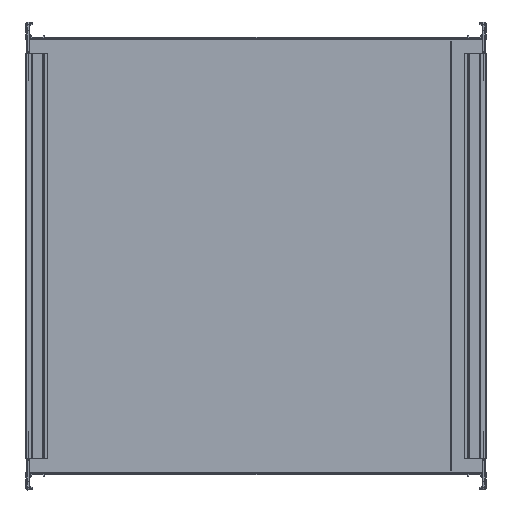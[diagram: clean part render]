
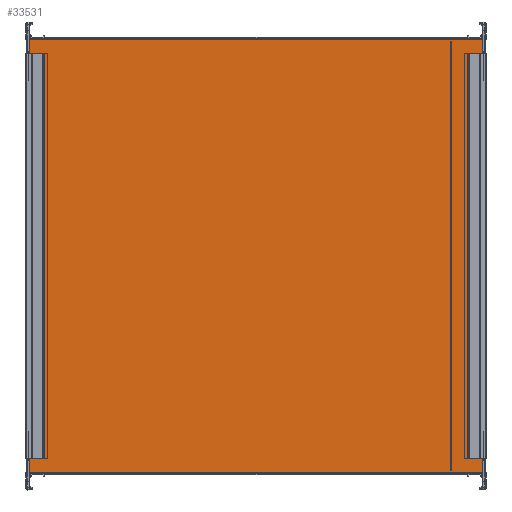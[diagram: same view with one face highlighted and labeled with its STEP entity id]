
A CAD part, front view. The second image highlights one B-rep face of the part: STEP entity #33531.
In plain terms, the highlighted planar face has unit normal (0, -1, 0).
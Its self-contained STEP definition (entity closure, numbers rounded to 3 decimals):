
#1854=FACE_BOUND('',#5904,.T.);
#1855=FACE_BOUND('',#5905,.T.);
#4098=FACE_OUTER_BOUND('',#5903,.T.);
#5903=EDGE_LOOP('',(#27131,#27132,#27133,#27134,#27135,#27136,#27137,#27138,
#27139,#27140,#27141,#27142));
#5904=EDGE_LOOP('',(#27143,#27144,#27145,#27146));
#5905=EDGE_LOOP('',(#27147,#27148,#27149,#27150));
#7525=LINE('',#49805,#10548);
#7526=LINE('',#49811,#10549);
#7572=LINE('',#49950,#10595);
#7587=LINE('',#49984,#10610);
#7600=LINE('',#50007,#10623);
#7601=LINE('',#50010,#10624);
#7605=LINE('',#50018,#10628);
#7611=LINE('',#50031,#10634);
#7625=LINE('',#50060,#10648);
#7630=LINE('',#50070,#10653);
#8399=LINE('',#56803,#11422);
#8400=LINE('',#56805,#11423);
#8492=LINE('',#57057,#11515);
#8578=LINE('',#57300,#11601);
#8579=LINE('',#57302,#11602);
#8580=LINE('',#57303,#11603);
#8581=LINE('',#57306,#11604);
#8582=LINE('',#57308,#11605);
#8583=LINE('',#57310,#11606);
#8584=LINE('',#57311,#11607);
#10548=VECTOR('',#39843,10.);
#10549=VECTOR('',#39848,10.);
#10595=VECTOR('',#39986,10.);
#10610=VECTOR('',#40021,10.);
#10623=VECTOR('',#40048,10.);
#10624=VECTOR('',#40051,10.);
#10628=VECTOR('',#40057,10.);
#10634=VECTOR('',#40065,10.);
#10648=VECTOR('',#40085,10.);
#10653=VECTOR('',#40092,10.);
#11422=VECTOR('',#41235,10.);
#11423=VECTOR('',#41238,10.);
#11515=VECTOR('',#41478,10.);
#11601=VECTOR('',#41712,10.);
#11602=VECTOR('',#41713,10.);
#11603=VECTOR('',#41714,10.);
#11604=VECTOR('',#41715,10.);
#11605=VECTOR('',#41716,10.);
#11606=VECTOR('',#41717,10.);
#11607=VECTOR('',#41718,10.);
#13638=VERTEX_POINT('',#49801);
#13639=VERTEX_POINT('',#49803);
#13641=VERTEX_POINT('',#49808);
#13642=VERTEX_POINT('',#49810);
#13688=VERTEX_POINT('',#49948);
#13689=VERTEX_POINT('',#49949);
#13702=VERTEX_POINT('',#50009);
#13705=VERTEX_POINT('',#50017);
#13710=VERTEX_POINT('',#50028);
#13711=VERTEX_POINT('',#50030);
#13722=VERTEX_POINT('',#50057);
#13723=VERTEX_POINT('',#50059);
#13726=VERTEX_POINT('',#50067);
#13727=VERTEX_POINT('',#50069);
#14804=VERTEX_POINT('',#57299);
#14805=VERTEX_POINT('',#57301);
#14806=VERTEX_POINT('',#57304);
#14807=VERTEX_POINT('',#57305);
#14808=VERTEX_POINT('',#57307);
#14809=VERTEX_POINT('',#57309);
#17365=EDGE_CURVE('',#13639,#13638,#7525,.T.);
#17367=EDGE_CURVE('',#13642,#13641,#7526,.T.);
#17436=EDGE_CURVE('',#13688,#13689,#7572,.T.);
#17455=EDGE_CURVE('',#13641,#13638,#7587,.T.);
#17468=EDGE_CURVE('',#13642,#13639,#7600,.T.);
#17469=EDGE_CURVE('',#13702,#13689,#7601,.T.);
#17473=EDGE_CURVE('',#13702,#13705,#7605,.T.);
#17479=EDGE_CURVE('',#13710,#13711,#7611,.T.);
#17493=EDGE_CURVE('',#13723,#13722,#7625,.T.);
#17498=EDGE_CURVE('',#13727,#13726,#7630,.T.);
#18865=EDGE_CURVE('',#13688,#13727,#8399,.T.);
#18866=EDGE_CURVE('',#13722,#13705,#8400,.T.);
#18994=EDGE_CURVE('',#13726,#13711,#8492,.T.);
#19116=EDGE_CURVE('',#13710,#14804,#8578,.T.);
#19117=EDGE_CURVE('',#14804,#14805,#8579,.T.);
#19118=EDGE_CURVE('',#14805,#13723,#8580,.T.);
#19119=EDGE_CURVE('',#14806,#14807,#8581,.T.);
#19120=EDGE_CURVE('',#14806,#14808,#8582,.T.);
#19121=EDGE_CURVE('',#14808,#14809,#8583,.T.);
#19122=EDGE_CURVE('',#14809,#14807,#8584,.T.);
#27131=ORIENTED_EDGE('',*,*,#18994,.T.);
#27132=ORIENTED_EDGE('',*,*,#17479,.F.);
#27133=ORIENTED_EDGE('',*,*,#19116,.T.);
#27134=ORIENTED_EDGE('',*,*,#19117,.T.);
#27135=ORIENTED_EDGE('',*,*,#19118,.T.);
#27136=ORIENTED_EDGE('',*,*,#17493,.T.);
#27137=ORIENTED_EDGE('',*,*,#18866,.T.);
#27138=ORIENTED_EDGE('',*,*,#17473,.F.);
#27139=ORIENTED_EDGE('',*,*,#17469,.T.);
#27140=ORIENTED_EDGE('',*,*,#17436,.F.);
#27141=ORIENTED_EDGE('',*,*,#18865,.T.);
#27142=ORIENTED_EDGE('',*,*,#17498,.T.);
#27143=ORIENTED_EDGE('',*,*,#17455,.T.);
#27144=ORIENTED_EDGE('',*,*,#17365,.F.);
#27145=ORIENTED_EDGE('',*,*,#17468,.F.);
#27146=ORIENTED_EDGE('',*,*,#17367,.T.);
#27147=ORIENTED_EDGE('',*,*,#19119,.F.);
#27148=ORIENTED_EDGE('',*,*,#19120,.T.);
#27149=ORIENTED_EDGE('',*,*,#19121,.T.);
#27150=ORIENTED_EDGE('',*,*,#19122,.T.);
#30816=PLANE('',#35605);
#33531=ADVANCED_FACE('',(#4098,#1854,#1855),#30816,.F.);
#35605=AXIS2_PLACEMENT_3D('',#57298,#41710,#41711);
#39843=DIRECTION('',(0.,0.,-1.));
#39848=DIRECTION('',(0.,0.,-1.));
#39986=DIRECTION('',(0.,0.,1.));
#40021=DIRECTION('',(-1.,0.,0.));
#40048=DIRECTION('',(-1.,0.,0.));
#40051=DIRECTION('',(0.,0.,-1.));
#40057=DIRECTION('',(0.,0.,1.));
#40065=DIRECTION('',(0.,0.,-1.));
#40085=DIRECTION('',(0.,0.,1.));
#40092=DIRECTION('',(0.,0.,-1.));
#41235=DIRECTION('',(0.,0.,-1.));
#41238=DIRECTION('',(-1.,0.,0.));
#41478=DIRECTION('',(1.,0.,0.));
#41710=DIRECTION('center_axis',(0.,1.,0.));
#41711=DIRECTION('ref_axis',(0.,0.,1.));
#41712=DIRECTION('',(0.,0.,1.));
#41713=DIRECTION('',(0.,0.,1.));
#41714=DIRECTION('',(0.,0.,1.));
#41715=DIRECTION('',(0.,0.,1.));
#41716=DIRECTION('',(-1.,0.,0.));
#41717=DIRECTION('',(0.,0.,1.));
#41718=DIRECTION('',(1.,0.,0.));
#49801=CARTESIAN_POINT('',(-17.408,-264.342,0.));
#49803=CARTESIAN_POINT('',(-17.408,-264.342,468.));
#49805=CARTESIAN_POINT('',(-17.408,-264.342,468.));
#49808=CARTESIAN_POINT('',(-5.689,-264.342,0.));
#49810=CARTESIAN_POINT('',(-5.689,-264.342,468.));
#49811=CARTESIAN_POINT('',(-5.689,-264.342,468.));
#49948=CARTESIAN_POINT('',(-24.464,-264.342,0.));
#49949=CARTESIAN_POINT('',(-24.464,-264.342,468.));
#49950=CARTESIAN_POINT('',(-24.464,-264.342,351.));
#49984=CARTESIAN_POINT('',(-5.689,-264.342,0.));
#50007=CARTESIAN_POINT('',(-5.689,-264.342,468.));
#50009=CARTESIAN_POINT('',(-24.464,-264.342,483.));
#50010=CARTESIAN_POINT('',(-24.464,-264.342,485.));
#50017=CARTESIAN_POINT('',(-24.464,-264.342,485.));
#50018=CARTESIAN_POINT('',(-24.464,-264.342,359.));
#50028=CARTESIAN_POINT('',(505.536,-264.342,-15.));
#50030=CARTESIAN_POINT('',(505.536,-264.342,-17.));
#50031=CARTESIAN_POINT('',(505.536,-264.342,359.5));
#50057=CARTESIAN_POINT('',(505.536,-264.342,485.));
#50059=CARTESIAN_POINT('',(505.536,-264.342,483.));
#50060=CARTESIAN_POINT('',(505.536,-264.342,359.5));
#50067=CARTESIAN_POINT('',(-24.464,-264.342,-17.));
#50069=CARTESIAN_POINT('',(-24.464,-264.342,-15.));
#50070=CARTESIAN_POINT('',(-24.464,-264.342,359.));
#56803=CARTESIAN_POINT('',(-24.464,-264.342,485.));
#56805=CARTESIAN_POINT('',(240.536,-264.342,485.));
#57057=CARTESIAN_POINT('',(240.536,-264.342,-17.));
#57298=CARTESIAN_POINT('Origin',(240.536,-264.342,234.));
#57299=CARTESIAN_POINT('',(505.536,-264.342,0.));
#57300=CARTESIAN_POINT('',(505.536,-264.342,-17.));
#57301=CARTESIAN_POINT('',(505.536,-264.342,468.));
#57302=CARTESIAN_POINT('',(505.536,-264.342,-17.));
#57303=CARTESIAN_POINT('',(505.536,-264.342,-17.));
#57304=CARTESIAN_POINT('',(498.481,-264.342,0.));
#57305=CARTESIAN_POINT('',(498.481,-264.342,468.));
#57306=CARTESIAN_POINT('',(498.481,-264.342,0.));
#57307=CARTESIAN_POINT('',(486.761,-264.342,0.));
#57308=CARTESIAN_POINT('',(369.529,-264.342,0.));
#57309=CARTESIAN_POINT('',(486.761,-264.342,468.));
#57310=CARTESIAN_POINT('',(486.761,-264.342,0.));
#57311=CARTESIAN_POINT('',(369.529,-264.342,468.));
